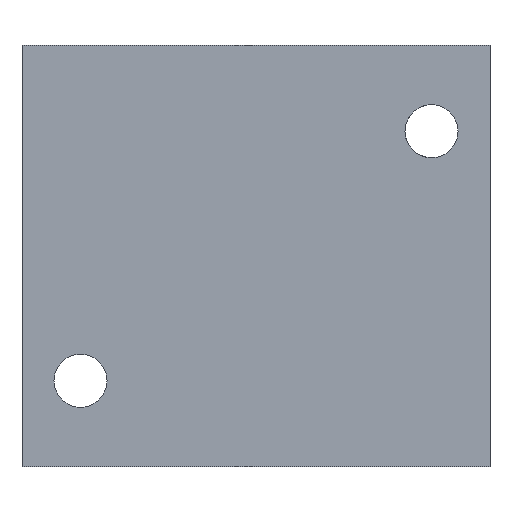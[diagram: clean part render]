
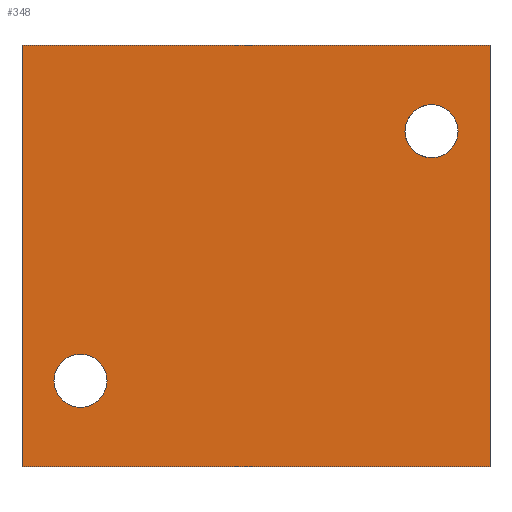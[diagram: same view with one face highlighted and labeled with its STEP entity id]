
A CAD part, front view. The second image highlights one B-rep face of the part: STEP entity #348.
In plain terms, the highlighted planar face has unit normal (0, -1, 0).
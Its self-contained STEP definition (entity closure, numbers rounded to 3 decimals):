
#6 = VERTEX_POINT ( 'NONE', #1662 ) ;
#106 = CARTESIAN_POINT ( 'NONE',  ( 22.5, -21., 16. ) ) ;
#116 = EDGE_CURVE ( 'NONE', #6, #546, #637, .T. ) ;
#163 = CARTESIAN_POINT ( 'NONE',  ( 30., -21., -27. ) ) ;
#181 = CARTESIAN_POINT ( 'NONE',  ( -22.5, -21., -16. ) ) ;
#188 = VECTOR ( 'NONE', #928, 1000. ) ;
#280 = FACE_BOUND ( 'NONE', #1302, .T. ) ;
#348 = ADVANCED_FACE ( 'NONE', ( #280, #1905, #1760 ), #927, .F. ) ;
#396 = DIRECTION ( 'NONE',  ( 0., 0., -1. ) ) ;
#408 = DIRECTION ( 'NONE',  ( 0., -1., 0. ) ) ;
#413 = DIRECTION ( 'NONE',  ( 0., -1., 0. ) ) ;
#418 = EDGE_CURVE ( 'NONE', #546, #6, #432, .T. ) ;
#432 = CIRCLE ( 'NONE', #1201, 3.4 ) ;
#449 = DIRECTION ( 'NONE',  ( 0., -1., 0. ) ) ;
#470 = DIRECTION ( 'NONE',  ( 0., 1., 0. ) ) ;
#505 = ORIENTED_EDGE ( 'NONE', *, *, #1479, .F. ) ;
#546 = VERTEX_POINT ( 'NONE', #810 ) ;
#548 = EDGE_CURVE ( 'NONE', #713, #1505, #1370, .T. ) ;
#549 = LINE ( 'NONE', #694, #1629 ) ;
#580 = EDGE_CURVE ( 'NONE', #1505, #713, #767, .T. ) ;
#637 = CIRCLE ( 'NONE', #872, 3.4 ) ;
#665 = CARTESIAN_POINT ( 'NONE',  ( -30., -21., -27. ) ) ;
#689 = ORIENTED_EDGE ( 'NONE', *, *, #418, .F. ) ;
#694 = CARTESIAN_POINT ( 'NONE',  ( -30., -21., 27. ) ) ;
#703 = ORIENTED_EDGE ( 'NONE', *, *, #580, .F. ) ;
#706 = AXIS2_PLACEMENT_3D ( 'NONE', #2070, #470, #1925 ) ;
#713 = VERTEX_POINT ( 'NONE', #1568 ) ;
#767 = CIRCLE ( 'NONE', #1599, 3.4 ) ;
#776 = VERTEX_POINT ( 'NONE', #1993 ) ;
#785 = EDGE_CURVE ( 'NONE', #776, #1007, #1540, .T. ) ;
#810 = CARTESIAN_POINT ( 'NONE',  ( 22.5, -21., 19.4 ) ) ;
#811 = DIRECTION ( 'NONE',  ( 1., 0., 0. ) ) ;
#870 = VECTOR ( 'NONE', #396, 1000. ) ;
#872 = AXIS2_PLACEMENT_3D ( 'NONE', #106, #408, #1044 ) ;
#897 = CARTESIAN_POINT ( 'NONE',  ( -22.5, -21., -16. ) ) ;
#913 = EDGE_CURVE ( 'NONE', #1559, #2022, #2042, .T. ) ;
#916 = CARTESIAN_POINT ( 'NONE',  ( 22.5, -21., 16. ) ) ;
#927 = PLANE ( 'NONE',  #706 ) ;
#928 = DIRECTION ( 'NONE',  ( 0., 0., -1. ) ) ;
#989 = EDGE_LOOP ( 'NONE', ( #703, #1108 ) ) ;
#992 = AXIS2_PLACEMENT_3D ( 'NONE', #181, #2019, #2011 ) ;
#1007 = VERTEX_POINT ( 'NONE', #665 ) ;
#1008 = EDGE_LOOP ( 'NONE', ( #1513, #1265, #505, #1476 ) ) ;
#1044 = DIRECTION ( 'NONE',  ( 0., 0., -1. ) ) ;
#1065 = CARTESIAN_POINT ( 'NONE',  ( 30., -21., 27. ) ) ;
#1093 = DIRECTION ( 'NONE',  ( 0., 0., -1. ) ) ;
#1108 = ORIENTED_EDGE ( 'NONE', *, *, #548, .F. ) ;
#1126 = EDGE_CURVE ( 'NONE', #1007, #2022, #1438, .T. ) ;
#1201 = AXIS2_PLACEMENT_3D ( 'NONE', #916, #449, #1093 ) ;
#1241 = CARTESIAN_POINT ( 'NONE',  ( 30., -21., 27. ) ) ;
#1265 = ORIENTED_EDGE ( 'NONE', *, *, #913, .F. ) ;
#1302 = EDGE_LOOP ( 'NONE', ( #1741, #689 ) ) ;
#1319 = VECTOR ( 'NONE', #811, 1000. ) ;
#1330 = DIRECTION ( 'NONE',  ( 1., 0., 0. ) ) ;
#1370 = CIRCLE ( 'NONE', #992, 3.4 ) ;
#1438 = LINE ( 'NONE', #1804, #1319 ) ;
#1476 = ORIENTED_EDGE ( 'NONE', *, *, #785, .T. ) ;
#1479 = EDGE_CURVE ( 'NONE', #776, #1559, #549, .T. ) ;
#1505 = VERTEX_POINT ( 'NONE', #1786 ) ;
#1513 = ORIENTED_EDGE ( 'NONE', *, *, #1126, .T. ) ;
#1540 = LINE ( 'NONE', #2024, #870 ) ;
#1559 = VERTEX_POINT ( 'NONE', #1065 ) ;
#1568 = CARTESIAN_POINT ( 'NONE',  ( -22.5, -21., -12.6 ) ) ;
#1599 = AXIS2_PLACEMENT_3D ( 'NONE', #897, #413, #1671 ) ;
#1629 = VECTOR ( 'NONE', #1330, 1000. ) ;
#1662 = CARTESIAN_POINT ( 'NONE',  ( 22.5, -21., 12.6 ) ) ;
#1671 = DIRECTION ( 'NONE',  ( 0., 0., -1. ) ) ;
#1741 = ORIENTED_EDGE ( 'NONE', *, *, #116, .F. ) ;
#1760 = FACE_OUTER_BOUND ( 'NONE', #1008, .T. ) ;
#1786 = CARTESIAN_POINT ( 'NONE',  ( -22.5, -21., -19.4 ) ) ;
#1804 = CARTESIAN_POINT ( 'NONE',  ( -30., -21., -27. ) ) ;
#1905 = FACE_BOUND ( 'NONE', #989, .T. ) ;
#1925 = DIRECTION ( 'NONE',  ( 0., 0., 1. ) ) ;
#1993 = CARTESIAN_POINT ( 'NONE',  ( -30., -21., 27. ) ) ;
#2011 = DIRECTION ( 'NONE',  ( 0., 0., -1. ) ) ;
#2019 = DIRECTION ( 'NONE',  ( 0., -1., 0. ) ) ;
#2022 = VERTEX_POINT ( 'NONE', #163 ) ;
#2024 = CARTESIAN_POINT ( 'NONE',  ( -30., -21., 27. ) ) ;
#2042 = LINE ( 'NONE', #1241, #188 ) ;
#2070 = CARTESIAN_POINT ( 'NONE',  ( -30., -21., 27. ) ) ;
